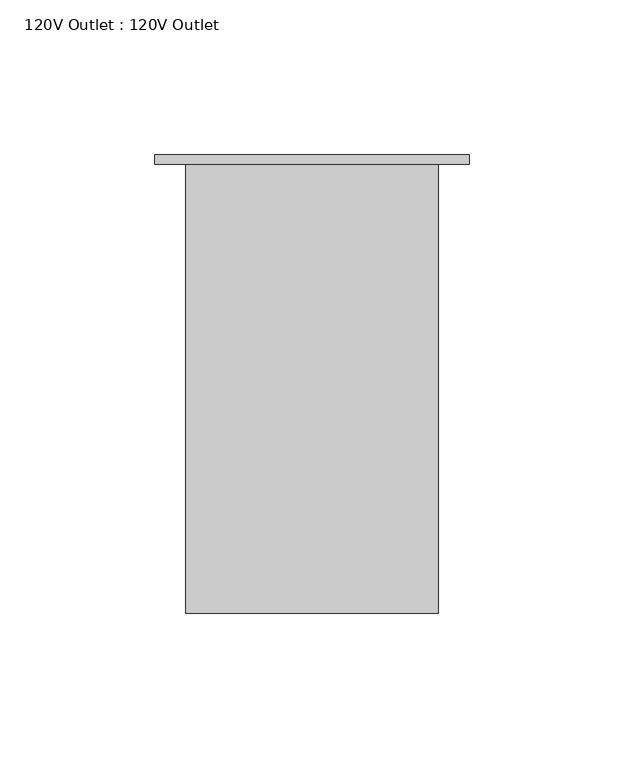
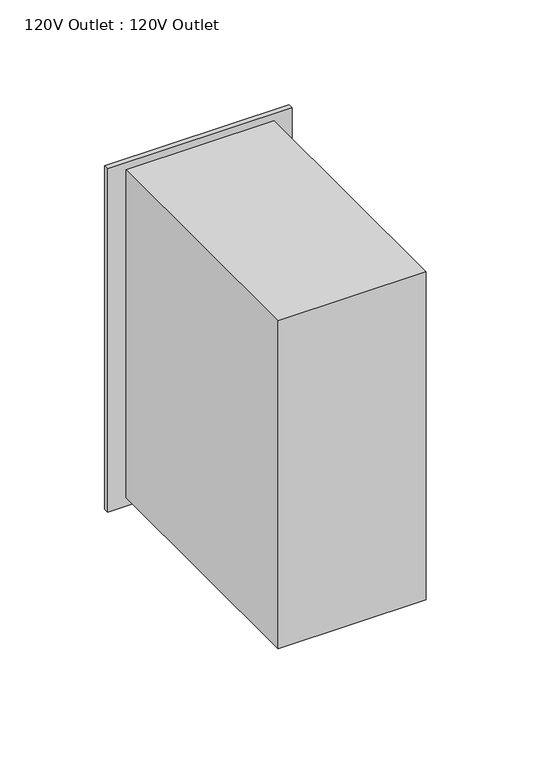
"""IFC4 building model written with IfcOpenShell, lengths in millimetres: proxy geometry, 120V Outlet : 120V Outlet."""

from ifc_helpers import new_model, si_unit, point, frame, frame_2d, origin, place, context, project, spatial, polyline, circle_curve, trimmed, segment, composite_curve, outline, extrude, source, transform, mapped, element, save


def proxy_120v_outlet_120v_outlet_1100b777(model_context):
    return source(origin(), model_context, "Body", "SweptSolid", [
        extrude(outline(polyline([(40.8, 28.5), (-40.8, 28.5), (-40.8, 173.6), (40.8, 173.6), (40.8, 28.5)])), frame((0.0, 0.0, 1887.0755609), z_axis=(0.0, 0.0, 1.0), x_axis=(1.0, 0.0, 0.0)), (0.0, 0.0, 1.0), 190.9390479),
        extrude(outline(polyline([(2082.0755609, -50.8), (1882.0755609, -50.8), (1882.0755609, 50.8), (2082.0755609, 50.8), (2082.0755609, -50.8)]), holes=[polyline([(2036.2177863, 19.9845665), (2036.2177863, 24.9845665), (2016.2177863, 24.9845665), (2016.2177863, 19.9845665), (2036.2177863, 19.9845665)]), polyline([(2036.2177863, -22.7879151), (2036.2177863, -17.6387853), (2016.2177863, -17.6387853), (2016.2177863, -22.7879151), (2036.2177863, -22.7879151)]), composite_curve([segment(trimmed(circle_curve(frame_2d((2059.9609957, 0.0)), 6.8655063), [point((2059.9609957, 6.8655063))], [point((2059.9609957, -6.8655063))], True, "CARTESIAN"), True, "CONTINUOUS"), segment(trimmed(circle_curve(frame_2d((2059.9609957, 0.0)), 6.8655063), [point((2059.9609957, -6.8655063))], [point((2059.9609957, 6.8655063))], True, "CARTESIAN"), True, "CONTINUOUS")], self_intersect=False), polyline([(1936.2177863, 19.9845665), (1936.2177863, 24.9845665), (1916.2177863, 24.9845665), (1916.2177863, 19.9845665), (1936.2177863, 19.9845665)]), polyline([(1936.2177863, -22.7879151), (1936.2177863, -17.6387853), (1916.2177863, -17.6387853), (1916.2177863, -22.7879151), (1936.2177863, -22.7879151)]), composite_curve([segment(trimmed(circle_curve(frame_2d((1959.9609957, 0.0)), 6.8655063), [point((1959.9609957, 6.8655063))], [point((1959.9609957, -6.8655063))], True, "CARTESIAN"), True, "CONTINUOUS"), segment(trimmed(circle_curve(frame_2d((1959.9609957, 0.0)), 6.8655063), [point((1959.9609957, -6.8655063))], [point((1959.9609957, 6.8655063))], True, "CARTESIAN"), True, "CONTINUOUS")], self_intersect=False)]), frame((0.0, 173.6, 0.0), z_axis=(0.0, 1.0, 0.0), x_axis=(0.0, 0.0, 1.0)), (0.0, 0.0, 1.0), 3.0),
    ])


if __name__ == "__main__":
    model = new_model("IFC4")
    model_context = context("Model", 3, world=origin())
    ifc_project = project(units=[si_unit("LENGTHUNIT", "METRE", prefix="MILLI")], contexts=[model_context])
    site = spatial("IfcSite", under=ifc_project)
    building = spatial("IfcBuilding", under=site)
    placement = place(None, origin())
    proxy_120v_outlet_120v_outlet_shape = proxy_120v_outlet_120v_outlet_1100b777(model_context)
    element("IfcBuildingElementProxy", 1, Name="120V Outlet : 120V Outlet", ObjectType="120V Outlet : 120V Outlet", at=placement, inside=building, context=model_context, shape_type="MappedRepresentation", body=[
        mapped(proxy_120v_outlet_120v_outlet_shape, transform((0.0, 0.0, 0.0), x_axis=(1.0, 0.0, 0.0), y_axis=(0.0, 1.0, 0.0), z_axis=(0.0, 0.0, 1.0))),
    ])
    save(model, "model.ifc")
